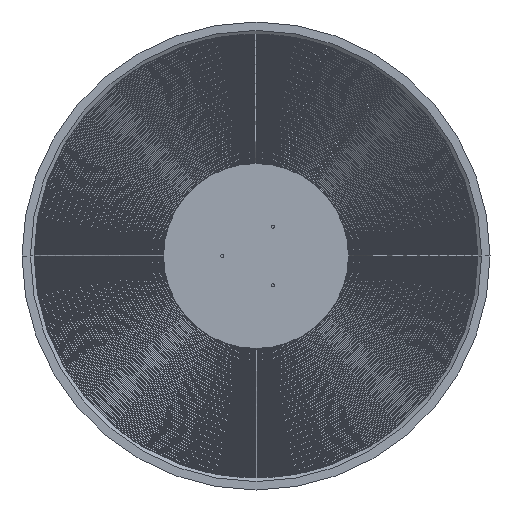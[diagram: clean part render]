
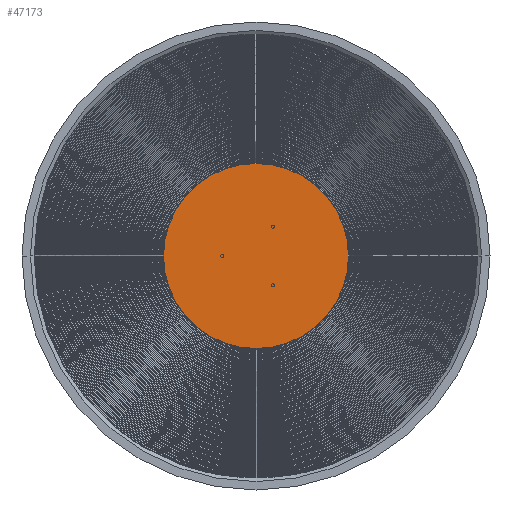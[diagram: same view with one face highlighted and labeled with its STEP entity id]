
A CAD part, front view. The second image highlights one B-rep face of the part: STEP entity #47173.
In plain terms, the highlighted planar face has unit normal (0, -1, 0) as drawn and (0, 0, 1) by its records, which use the part's own axes.
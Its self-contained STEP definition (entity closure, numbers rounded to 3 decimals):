
#2418 = DIRECTION ( 'NONE',  ( 0., 0., 1. ) ) ;
#3084 = PLANE ( 'NONE',  #27096 ) ;
#7040 = ORIENTED_EDGE ( 'NONE', *, *, #40361, .T. ) ;
#9187 = CIRCLE ( 'NONE', #50311, 164. ) ;
#9973 = DIRECTION ( 'NONE',  ( 0., 0., 1. ) ) ;
#12365 = CARTESIAN_POINT ( 'NONE',  ( 164., 0., 12. ) ) ;
#14816 = EDGE_CURVE ( 'NONE', #40023, #19377, #35518, .T. ) ;
#19377 = VERTEX_POINT ( 'NONE', #35507 ) ;
#19764 = DIRECTION ( 'NONE',  ( 1., 0., 0. ) ) ;
#26440 = FACE_OUTER_BOUND ( 'NONE', #42513, .T. ) ;
#26744 = DIRECTION ( 'NONE',  ( 0., 0., 1. ) ) ;
#27055 = CARTESIAN_POINT ( 'NONE',  ( 0., 0., 12. ) ) ;
#27096 = AXIS2_PLACEMENT_3D ( 'NONE', #27055, #26744, #40541 ) ;
#35507 = CARTESIAN_POINT ( 'NONE',  ( -164., 0., 12. ) ) ;
#35518 = CIRCLE ( 'NONE', #59993, 164. ) ;
#35893 = CARTESIAN_POINT ( 'NONE',  ( 0., 0., 12. ) ) ;
#37639 = CARTESIAN_POINT ( 'NONE',  ( 0., 0., 12. ) ) ;
#40023 = VERTEX_POINT ( 'NONE', #12365 ) ;
#40361 = EDGE_CURVE ( 'NONE', #19377, #40023, #9187, .T. ) ;
#40541 = DIRECTION ( 'NONE',  ( 1., 0., 0. ) ) ;
#42513 = EDGE_LOOP ( 'NONE', ( #7040, #59283 ) ) ;
#47173 = ADVANCED_FACE ( 'NONE', ( #26440 ), #3084, .T. ) ;
#49998 = DIRECTION ( 'NONE',  ( 1., 0., 0. ) ) ;
#50311 = AXIS2_PLACEMENT_3D ( 'NONE', #37639, #9973, #19764 ) ;
#59283 = ORIENTED_EDGE ( 'NONE', *, *, #14816, .T. ) ;
#59993 = AXIS2_PLACEMENT_3D ( 'NONE', #35893, #2418, #49998 ) ;
